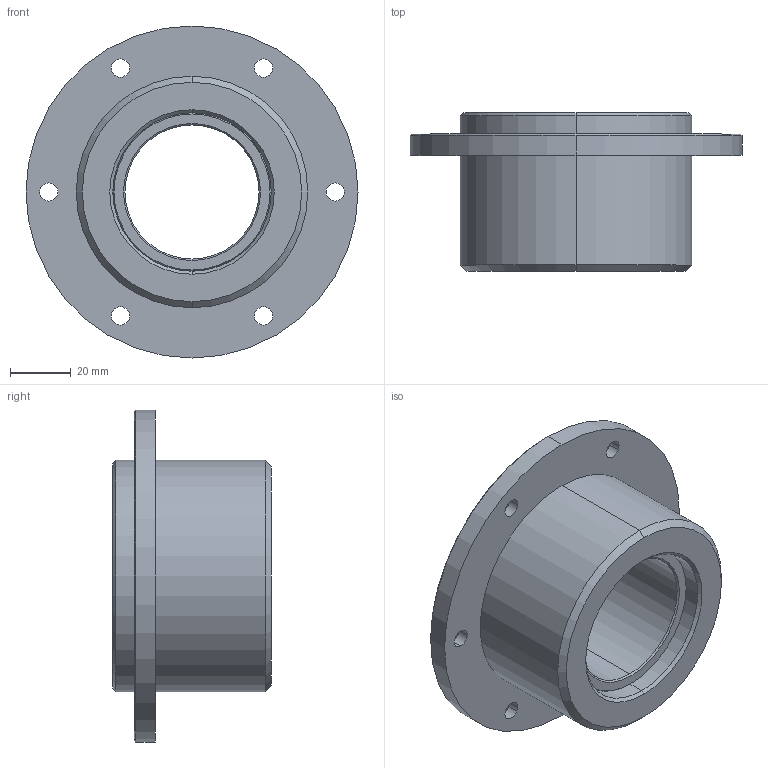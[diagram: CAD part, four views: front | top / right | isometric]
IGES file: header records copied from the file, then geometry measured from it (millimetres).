
Start section: 3D InterOp IGES (Version 20 0 1), Spatial Corp. Copyright (c) 1999-2007.
Global section: file name: 10.13.04.igs; native system: Spatial Corp.; preprocessor: 3D InterOp GENERIC/IGES 3.0; author: Noname; organization: Noname; date: 20111110.164309; units: metre
Bounding box: 109 x 52 x 109 mm (x, y, z)
Surface area: 51496.3 mm2 (no closed solid volume)
Topology: 0 solids, 0 shells, 86 faces, 787 edges, 1174 vertices
Faces by surface type: revolution 72, extrusion 14
